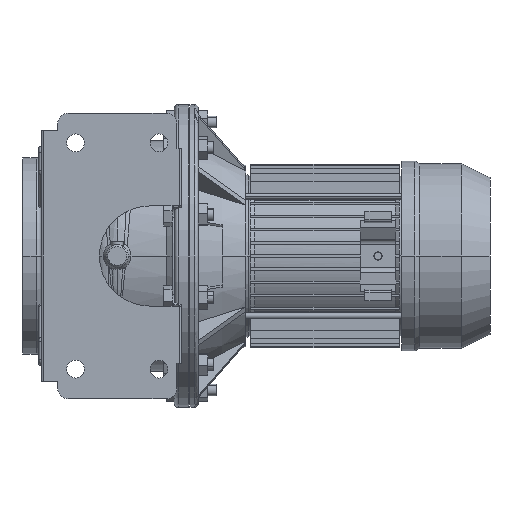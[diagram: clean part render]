
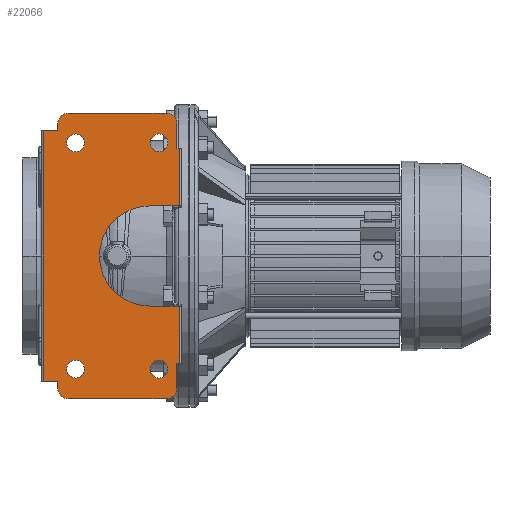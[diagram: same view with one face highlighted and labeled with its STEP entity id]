
A CAD part, front view. The second image highlights one B-rep face of the part: STEP entity #22066.
In plain terms, the highlighted planar face has unit normal (0, -1, 0).
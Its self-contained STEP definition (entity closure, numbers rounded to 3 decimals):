
#18313=CARTESIAN_POINT('',(35.,-132.,-95.));
#18314=DIRECTION('',(0.,-1.,0.));
#18315=DIRECTION('',(1.,0.,0.));
#18316=AXIS2_PLACEMENT_3D('',#18313,#18314,#18315);
#18321=CARTESIAN_POINT('',(35.,-132.,-95.));
#18322=DIRECTION('',(0.,-1.,0.));
#18323=DIRECTION('',(-1.,0.,0.));
#18324=AXIS2_PLACEMENT_3D('',#18321,#18322,#18323);
#18329=CARTESIAN_POINT('',(-35.,-132.,-95.));
#18330=DIRECTION('',(0.,-1.,0.));
#18331=DIRECTION('',(1.,0.,0.));
#18332=AXIS2_PLACEMENT_3D('',#18329,#18330,#18331);
#18337=CARTESIAN_POINT('',(-35.,-132.,-95.));
#18338=DIRECTION('',(0.,-1.,0.));
#18339=DIRECTION('',(-1.,0.,0.));
#18340=AXIS2_PLACEMENT_3D('',#18337,#18338,#18339);
#18345=CARTESIAN_POINT('',(35.,-132.,95.));
#18346=DIRECTION('',(0.,-1.,0.));
#18347=DIRECTION('',(1.,0.,0.));
#18348=AXIS2_PLACEMENT_3D('',#18345,#18346,#18347);
#18353=CARTESIAN_POINT('',(35.,-132.,95.));
#18354=DIRECTION('',(0.,-1.,0.));
#18355=DIRECTION('',(-1.,0.,0.));
#18356=AXIS2_PLACEMENT_3D('',#18353,#18354,#18355);
#18361=CARTESIAN_POINT('',(-35.,-132.,95.));
#18362=DIRECTION('',(0.,-1.,0.));
#18363=DIRECTION('',(1.,0.,0.));
#18364=AXIS2_PLACEMENT_3D('',#18361,#18362,#18363);
#18369=CARTESIAN_POINT('',(-35.,-132.,95.));
#18370=DIRECTION('',(0.,-1.,0.));
#18371=DIRECTION('',(-1.,0.,0.));
#18372=AXIS2_PLACEMENT_3D('',#18369,#18370,#18371);
#18377=DIRECTION('',(0.,0.,1.));
#18378=VECTOR('',#18377,48.);
#18379=CARTESIAN_POINT('',(52.,-132.,-90.));
#18380=LINE('',#18379,#18378);
#18384=DIRECTION('',(0.,0.,-1.));
#18385=VECTOR('',#18384,21.);
#18386=CARTESIAN_POINT('',(50.,-132.,-90.));
#18387=LINE('',#18386,#18385);
#18391=CARTESIAN_POINT('',(41.,-132.,-111.));
#18392=DIRECTION('',(0.,-1.,0.));
#18393=DIRECTION('',(0.,0.,-1.));
#18394=AXIS2_PLACEMENT_3D('',#18391,#18392,#18393);
#18399=DIRECTION('',(-1.,0.,0.));
#18400=VECTOR('',#18399,82.);
#18401=CARTESIAN_POINT('',(41.,-132.,-120.));
#18402=LINE('',#18401,#18400);
#18406=CARTESIAN_POINT('',(-41.,-132.,-111.));
#18407=DIRECTION('',(0.,-1.,0.));
#18408=DIRECTION('',(-1.,0.,0.));
#18409=AXIS2_PLACEMENT_3D('',#18406,#18407,#18408);
#18414=DIRECTION('',(0.,0.,1.));
#18415=VECTOR('',#18414,6.);
#18416=CARTESIAN_POINT('',(-50.,-132.,-111.));
#18417=LINE('',#18416,#18415);
#18421=DIRECTION('',(-1.,0.,0.));
#18422=VECTOR('',#18421,12.);
#18423=CARTESIAN_POINT('',(-50.,-132.,-105.));
#18424=LINE('',#18423,#18422);
#18428=DIRECTION('',(1.,0.,0.));
#18429=VECTOR('',#18428,12.);
#18430=CARTESIAN_POINT('',(-62.,-132.,105.));
#18431=LINE('',#18430,#18429);
#18435=DIRECTION('',(0.,0.,1.));
#18436=VECTOR('',#18435,6.);
#18437=CARTESIAN_POINT('',(-50.,-132.,105.));
#18438=LINE('',#18437,#18436);
#18442=CARTESIAN_POINT('',(-41.,-132.,111.));
#18443=DIRECTION('',(0.,-1.,0.));
#18444=DIRECTION('',(0.,0.,1.));
#18445=AXIS2_PLACEMENT_3D('',#18442,#18443,#18444);
#18450=DIRECTION('',(1.,0.,0.));
#18451=VECTOR('',#18450,82.);
#18452=CARTESIAN_POINT('',(-41.,-132.,120.));
#18453=LINE('',#18452,#18451);
#18457=CARTESIAN_POINT('',(41.,-132.,111.));
#18458=DIRECTION('',(0.,-1.,0.));
#18459=DIRECTION('',(1.,0.,0.));
#18460=AXIS2_PLACEMENT_3D('',#18457,#18458,#18459);
#18465=DIRECTION('',(0.,0.,-1.));
#18466=VECTOR('',#18465,21.);
#18467=CARTESIAN_POINT('',(50.,-132.,111.));
#18468=LINE('',#18467,#18466);
#18472=DIRECTION('',(0.,0.,1.));
#18473=VECTOR('',#18472,48.);
#18474=CARTESIAN_POINT('',(52.,-132.,42.));
#18475=LINE('',#18474,#18473);
#18479=CARTESIAN_POINT('',(27.,-132.,0.));
#18480=DIRECTION('',(0.,-1.,0.));
#18481=DIRECTION('',(0.,0.,1.));
#18482=AXIS2_PLACEMENT_3D('',#18479,#18480,#18481);
#18559=DIRECTION('',(1.,0.,0.));
#18560=VECTOR('',#18559,25.);
#18561=CARTESIAN_POINT('',(27.,-132.,42.));
#18562=LINE('',#18561,#18560);
#18662=DIRECTION('',(-1.,0.,0.));
#18663=VECTOR('',#18662,25.);
#18664=CARTESIAN_POINT('',(52.,-132.,-42.));
#18665=LINE('',#18664,#18663);
#19785=DIRECTION('',(1.,0.,0.));
#19786=VECTOR('',#19785,2.);
#19787=CARTESIAN_POINT('',(50.,-132.,-90.));
#19788=LINE('',#19787,#19786);
#19849=DIRECTION('',(0.,0.,1.));
#19850=VECTOR('',#19849,210.);
#19851=CARTESIAN_POINT('',(-62.,-132.,-105.));
#19852=LINE('',#19851,#19850);
#19907=DIRECTION('',(-1.,0.,0.));
#19908=VECTOR('',#19907,2.);
#19909=CARTESIAN_POINT('',(52.,-132.,90.));
#19910=LINE('',#19909,#19908);
#21107=CARTESIAN_POINT('',(-27.5,-132.,95.));
#21108=CARTESIAN_POINT('',(-42.5,-132.,95.));
#21109=VERTEX_POINT('',#21107);
#21110=VERTEX_POINT('',#21108);
#21111=CARTESIAN_POINT('',(42.5,-132.,95.));
#21112=CARTESIAN_POINT('',(27.5,-132.,95.));
#21113=VERTEX_POINT('',#21111);
#21114=VERTEX_POINT('',#21112);
#21115=CARTESIAN_POINT('',(-27.5,-132.,-95.));
#21116=CARTESIAN_POINT('',(-42.5,-132.,-95.));
#21117=VERTEX_POINT('',#21115);
#21118=VERTEX_POINT('',#21116);
#21119=CARTESIAN_POINT('',(42.5,-132.,-95.));
#21120=CARTESIAN_POINT('',(27.5,-132.,-95.));
#21121=VERTEX_POINT('',#21119);
#21122=VERTEX_POINT('',#21120);
#21123=CARTESIAN_POINT('',(27.,-132.,42.));
#21124=CARTESIAN_POINT('',(27.,-132.,-42.));
#21125=VERTEX_POINT('',#21123);
#21126=VERTEX_POINT('',#21124);
#21143=CARTESIAN_POINT('',(50.,-132.,-90.));
#21145=VERTEX_POINT('',#21143);
#21147=CARTESIAN_POINT('',(-50.,-132.,-105.));
#21149=VERTEX_POINT('',#21147);
#21151=CARTESIAN_POINT('',(-50.,-132.,105.));
#21153=VERTEX_POINT('',#21151);
#21155=CARTESIAN_POINT('',(50.,-132.,90.));
#21157=VERTEX_POINT('',#21155);
#21159=CARTESIAN_POINT('',(-62.,-132.,-105.));
#21160=VERTEX_POINT('',#21159);
#21161=CARTESIAN_POINT('',(-62.,-132.,105.));
#21162=VERTEX_POINT('',#21161);
#21172=CARTESIAN_POINT('',(-50.,-132.,111.));
#21174=VERTEX_POINT('',#21172);
#21177=CARTESIAN_POINT('',(-41.,-132.,120.));
#21178=VERTEX_POINT('',#21177);
#21180=CARTESIAN_POINT('',(41.,-132.,120.));
#21182=VERTEX_POINT('',#21180);
#21185=CARTESIAN_POINT('',(50.,-132.,111.));
#21186=VERTEX_POINT('',#21185);
#21188=CARTESIAN_POINT('',(50.,-132.,-111.));
#21190=VERTEX_POINT('',#21188);
#21193=CARTESIAN_POINT('',(41.,-132.,-120.));
#21194=VERTEX_POINT('',#21193);
#21196=CARTESIAN_POINT('',(-41.,-132.,-120.));
#21198=VERTEX_POINT('',#21196);
#21201=CARTESIAN_POINT('',(-50.,-132.,-111.));
#21202=VERTEX_POINT('',#21201);
#21299=CARTESIAN_POINT('',(52.,-132.,42.));
#21301=VERTEX_POINT('',#21299);
#21303=CARTESIAN_POINT('',(52.,-132.,-42.));
#21305=VERTEX_POINT('',#21303);
#21307=CARTESIAN_POINT('',(52.,-132.,-90.));
#21308=VERTEX_POINT('',#21307);
#21309=CARTESIAN_POINT('',(52.,-132.,90.));
#21310=VERTEX_POINT('',#21309);
#21996=CARTESIAN_POINT('',(54.,-132.,42.));
#21997=DIRECTION('',(0.,1.,0.));
#21998=DIRECTION('',(0.,0.,1.));
#21999=AXIS2_PLACEMENT_3D('',#21996,#21997,#21998);
#22000=PLANE('',#21999);
#22002=ORIENTED_EDGE('',*,*,#22001,.F.);
#22004=ORIENTED_EDGE('',*,*,#22003,.F.);
#22006=ORIENTED_EDGE('',*,*,#22005,.T.);
#22008=ORIENTED_EDGE('',*,*,#22007,.F.);
#22010=ORIENTED_EDGE('',*,*,#22009,.T.);
#22012=ORIENTED_EDGE('',*,*,#22011,.F.);
#22014=ORIENTED_EDGE('',*,*,#22013,.T.);
#22016=ORIENTED_EDGE('',*,*,#22015,.T.);
#22018=ORIENTED_EDGE('',*,*,#22017,.T.);
#22020=ORIENTED_EDGE('',*,*,#22019,.T.);
#22022=ORIENTED_EDGE('',*,*,#22021,.T.);
#22024=ORIENTED_EDGE('',*,*,#22023,.F.);
#22026=ORIENTED_EDGE('',*,*,#22025,.T.);
#22028=ORIENTED_EDGE('',*,*,#22027,.F.);
#22030=ORIENTED_EDGE('',*,*,#22029,.T.);
#22032=ORIENTED_EDGE('',*,*,#22031,.F.);
#22034=ORIENTED_EDGE('',*,*,#22033,.F.);
#22036=ORIENTED_EDGE('',*,*,#22035,.F.);
#22038=ORIENTED_EDGE('',*,*,#22037,.T.);
#22040=ORIENTED_EDGE('',*,*,#22039,.F.);
#22041=EDGE_LOOP('',(#22002,#22004,#22006,#22008,#22010,#22012,#22014,#22016,
#22018,#22020,#22022,#22024,#22026,#22028,#22030,#22032,#22034,#22036,#22038,
#22040));
#22042=FACE_OUTER_BOUND('',#22041,.F.);
#22044=ORIENTED_EDGE('',*,*,#22043,.T.);
#22046=ORIENTED_EDGE('',*,*,#22045,.T.);
#22047=EDGE_LOOP('',(#22044,#22046));
#22048=FACE_BOUND('',#22047,.F.);
#22050=ORIENTED_EDGE('',*,*,#22049,.T.);
#22052=ORIENTED_EDGE('',*,*,#22051,.T.);
#22053=EDGE_LOOP('',(#22050,#22052));
#22054=FACE_BOUND('',#22053,.F.);
#22055=ORIENTED_EDGE('',*,*,#21986,.T.);
#22057=ORIENTED_EDGE('',*,*,#22056,.T.);
#22058=EDGE_LOOP('',(#22055,#22057));
#22059=FACE_BOUND('',#22058,.F.);
#22061=ORIENTED_EDGE('',*,*,#22060,.T.);
#22063=ORIENTED_EDGE('',*,*,#22062,.T.);
#22064=EDGE_LOOP('',(#22061,#22063));
#22065=FACE_BOUND('',#22064,.F.);
#18317=CIRCLE('',#18316,7.5);
#18325=CIRCLE('',#18324,7.5);
#18333=CIRCLE('',#18332,7.5);
#18341=CIRCLE('',#18340,7.5);
#18349=CIRCLE('',#18348,7.5);
#18357=CIRCLE('',#18356,7.5);
#18365=CIRCLE('',#18364,7.5);
#18373=CIRCLE('',#18372,7.5);
#18395=CIRCLE('',#18394,9.);
#18410=CIRCLE('',#18409,9.);
#18446=CIRCLE('',#18445,9.);
#18461=CIRCLE('',#18460,9.);
#18483=CIRCLE('',#18482,42.);
#21986=EDGE_CURVE('',#21109,#21110,#18365,.T.);
#22001=EDGE_CURVE('',#21308,#21305,#18380,.T.);
#22003=EDGE_CURVE('',#21145,#21308,#19788,.T.);
#22005=EDGE_CURVE('',#21145,#21190,#18387,.T.);
#22007=EDGE_CURVE('',#21194,#21190,#18395,.T.);
#22009=EDGE_CURVE('',#21194,#21198,#18402,.T.);
#22011=EDGE_CURVE('',#21202,#21198,#18410,.T.);
#22013=EDGE_CURVE('',#21202,#21149,#18417,.T.);
#22015=EDGE_CURVE('',#21149,#21160,#18424,.T.);
#22017=EDGE_CURVE('',#21160,#21162,#19852,.T.);
#22019=EDGE_CURVE('',#21162,#21153,#18431,.T.);
#22021=EDGE_CURVE('',#21153,#21174,#18438,.T.);
#22023=EDGE_CURVE('',#21178,#21174,#18446,.T.);
#22025=EDGE_CURVE('',#21178,#21182,#18453,.T.);
#22027=EDGE_CURVE('',#21186,#21182,#18461,.T.);
#22029=EDGE_CURVE('',#21186,#21157,#18468,.T.);
#22031=EDGE_CURVE('',#21310,#21157,#19910,.T.);
#22033=EDGE_CURVE('',#21301,#21310,#18475,.T.);
#22035=EDGE_CURVE('',#21125,#21301,#18562,.T.);
#22037=EDGE_CURVE('',#21125,#21126,#18483,.T.);
#22039=EDGE_CURVE('',#21305,#21126,#18665,.T.);
#22043=EDGE_CURVE('',#21117,#21118,#18333,.T.);
#22045=EDGE_CURVE('',#21118,#21117,#18341,.T.);
#22049=EDGE_CURVE('',#21113,#21114,#18349,.T.);
#22051=EDGE_CURVE('',#21114,#21113,#18357,.T.);
#22056=EDGE_CURVE('',#21110,#21109,#18373,.T.);
#22060=EDGE_CURVE('',#21121,#21122,#18317,.T.);
#22062=EDGE_CURVE('',#21122,#21121,#18325,.T.);
#22066=ADVANCED_FACE('',(#22042,#22048,#22054,#22059,#22065),#22000,.F.);
